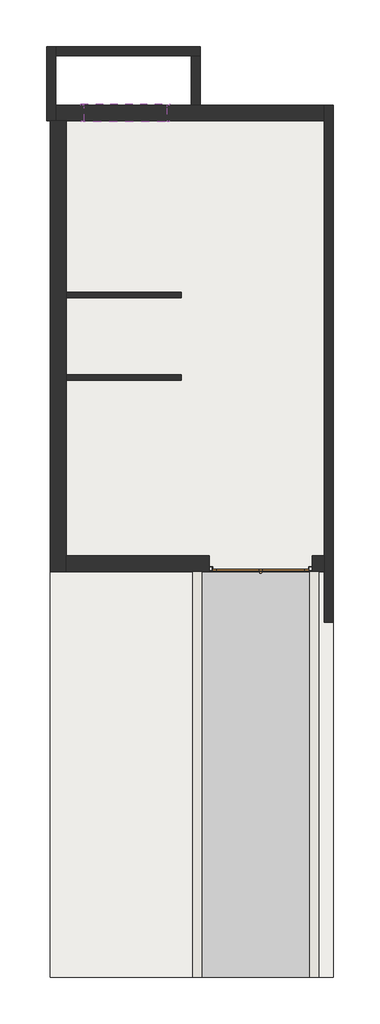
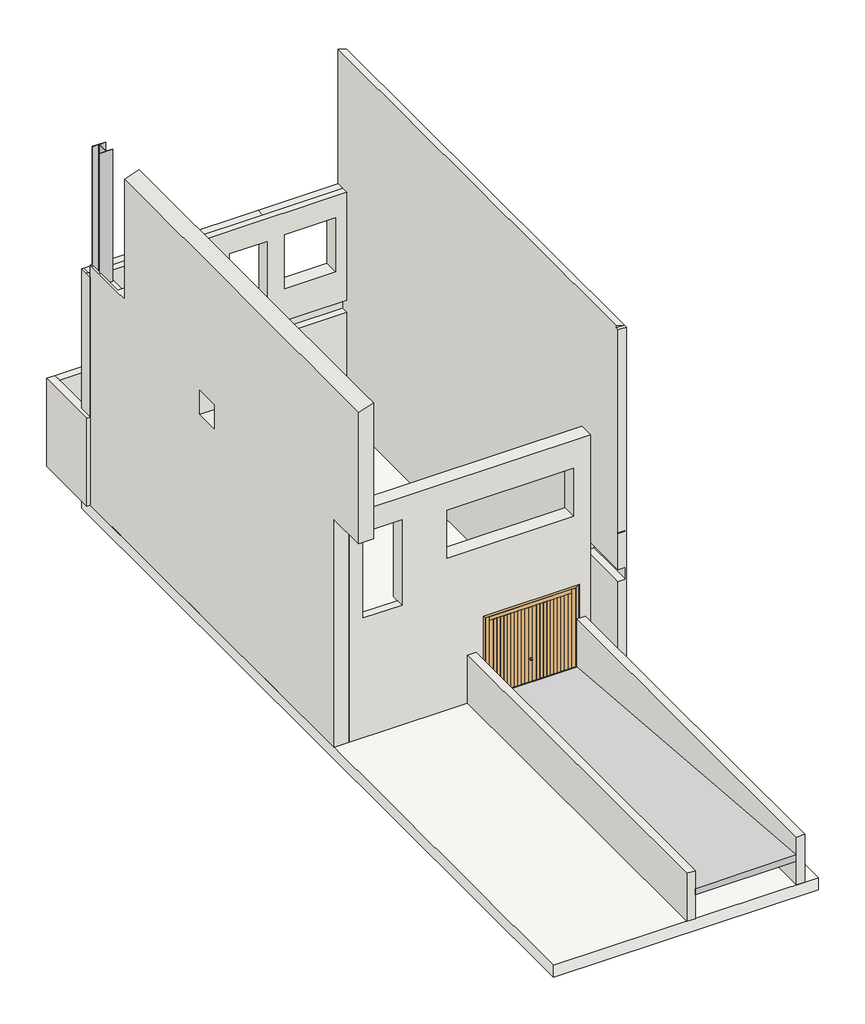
# One storey, incomplete: 11 walls, 1 column, 1 door, 1 ramp, 1 slab, 1 window.
"""IFC4 building model written with IfcOpenShell, lengths in millimetres."""

from ifc_helpers import new_model, si_unit, frame, origin, place, context, project, spatial, polyline, outline, extrude, faceted_brep, transform, mapped, element, save
from components import column_305x305x97uc_55296ce6, so_2285x2044_3bf3b656, ramp_1_c634dc8e, m_transom_1830_x_0457mm_4e4a5cc7

model = new_model("IFC4")

# Units and contexts
model_context = context("Model", 3, world=origin())
ifc_project = project(units=[si_unit("LENGTHUNIT", "METRE", prefix="MILLI")], contexts=[model_context])

# Site, building, storey
site = spatial("IfcSite", under=ifc_project)
building = spatial("IfcBuilding", under=site)
storey = spatial("IfcBuildingStorey", under=building, Name="Garáž", Elevation=-3000.0)

# Column
placement = place(None, origin())
column_305x305x97uc_shape = column_305x305x97uc_55296ce6(model_context)
element("IfcColumn", 1, ObjectType="SloupKonstrukční : 305x305x97UC", at=placement, inside=storey, context=model_context, shape_type="MappedRepresentation", body=[
    mapped(column_305x305x97uc_shape, transform((-7961.8266822, 4019.7328473, 0.0), x_axis=(1.0, 0.0, 0.0), y_axis=(0.0, 1.0, 0.0), z_axis=(0.0, 0.0, 1.0))),
])

# Door
so_2285x2044_shape = so_2285x2044_3bf3b656(model_context)
element("IfcDoor", 2, ObjectType="Garage-UpandOver-Type A : SO 2285x2044", at=placement, inside=storey, context=model_context, shape_type="MappedRepresentation", body=[
    mapped(so_2285x2044_shape, transform((-3468.5130621, -5601.7671527, -3000.0), x_axis=(1.0, 0.0, 0.0), y_axis=(0.0, 1.0, 0.0), z_axis=(0.0, 0.0, 1.0))),
])

# Ramp
ramp_1_shape = ramp_1_c634dc8e(model_context)
element("IfcRamp", 3, ObjectType="Ramp 1", at=placement, inside=storey, context=model_context, shape_type="MappedRepresentation", body=[
    mapped(ramp_1_shape, transform((0.0, 0.0, 0.0), x_axis=(1.0, 0.0, 0.0), y_axis=(0.0, 1.0, 0.0), z_axis=(0.0, 0.0, 1.0))),
])

# Slab
element("IfcSlab", 4, ObjectType="Domestic Slab", at=placement, inside=storey, context=model_context, shape_type="SweptSolid", body=[
    extrude(outline(polyline([(-8133.3266822, 4576.7328473), (-1861.8266822, 4576.7328473), (-1861.8266822, -14776.7671527), (-8133.3266822, -14776.7671527), (-8133.3266822, 4576.7328473)])), frame((0.0, 0.0, -3300.0), z_axis=(0.0, 0.0, 1.0), x_axis=(1.0, 0.0, 0.0)), (0.0, 0.0, 1.0), 300.0),
])

# Walls
element("IfcWall", 5, ObjectType="Exterior - Brick on Mtl. Stud", at=placement, inside=storey, context=model_context, shape_type="Brep", body=[
    faceted_brep([(-8133.3266822, 4223.2328473, -3000.0), (-8133.3266822, -5776.7671527, -3000.0), (-8133.3266822, -5776.7671527, 2700.0), (-8133.3266822, -6780.2671527, 2700.0), (-8133.3266822, -6780.2671527, 6000.0), (-8133.3266822, 2823.2328473, 6000.0), (-8133.3266822, 2823.2328473, 3000.0), (-8133.3266822, 3173.2328473, 3000.0), (-8133.3266822, 4223.2328473, 3000.0), (-8133.3266822, -856.8406402, 2583.8025508), (-8133.3266822, -856.8406402, 1983.8025508), (-8133.3266822, -256.8406402, 1983.8025508), (-8133.3266822, -256.8406402, 2583.8025508), (-7783.3266822, -5776.7671527, -3000.0), (-7783.3266822, 4223.2328473, -3000.0), (-7783.3266822, 4223.2328473, -300.0), (-7783.3266822, 298.1593598, -300.0), (-7783.3266822, 298.1593598, 0.0), (-7783.3266822, 4223.2328473, 0.0), (-7783.3266822, 4223.2328473, 2700.0), (-7783.3266822, 298.1593598, 2700.0), (-7783.3266822, 298.1593598, 3000.0), (-7783.3266822, 2823.2328473, 3000.0), (-7783.3266822, 2823.2328473, 6112.3021997), (-7783.3266822, -6426.7671527, 6112.3021997), (-7783.3266822, -6776.7671527, 6112.3021997), (-7783.3266822, -6780.2671527, 6112.3021997), (-7783.3266822, -6780.2671527, 2700.0), (-7783.3266822, -6776.7671527, 2700.0), (-7783.3266822, -6426.7671527, 2700.0), (-7783.3266822, -6423.2671527, 2700.0), (-7783.3266822, -6423.2671527, 3000.0), (-7783.3266822, -1401.8406402, 3000.0), (-7783.3266822, -1401.8406402, 2700.0), (-7783.3266822, -5776.7671527, 2700.0), (-7783.3266822, -856.8406402, 1983.8025508), (-7783.3266822, -856.8406402, 2583.8025508), (-7783.3266822, -256.8406402, 2583.8025508), (-7783.3266822, -256.8406402, 1983.8025508), (-7783.3266822, -1401.8406402, -300.0), (-7783.3266822, -5595.2671527, -300.0), (-7783.3266822, -5595.2671527, 0.0), (-7783.3266822, -1401.8406402, 0.0), (-7948.3266822, -5776.7671527, 2700.0), (-7948.3266822, -6423.2671527, 2700.0), (-7948.3266822, 2823.2328473, 3000.0), (-7948.3266822, 3173.2328473, 3000.0), (-8088.3266822, 3173.2328473, 3000.0), (-8088.3266822, 4223.2328473, 3000.0), (-8088.3266822, 4223.2328473, 2700.0), (-7948.3266822, 4223.2328473, 0.0), (-7948.3266822, 4223.2328473, -300.0), (-7948.3266822, -1401.8406402, -300.0), (-7948.3266822, -5595.2671527, -300.0), (-7948.3266822, 298.1593598, -300.0), (-7948.3266822, -5595.2671527, 0.0), (-7948.3266822, -1401.8406402, 0.0), (-7948.3266822, 298.1593598, 0.0), (-7948.3266822, 3173.2328473, 2700.0), (-7948.3266822, 298.1593598, 2700.0), (-8088.3266822, 3173.2328473, 2700.0), (-7948.3266822, -1401.8406402, 2700.0), (-7948.3266822, -6423.2671527, 3000.0), (-7948.3266822, -1401.8406402, 3000.0), (-7948.3266822, 298.1593598, 3000.0)], [[[0, 1, 2, 3, 4, 5, 6, 7, 8], [9, 10, 11, 12]], [[13, 14, 15, 16, 17, 18, 19, 20, 21, 22, 23, 24, 25, 26, 27, 28, 29, 30, 31, 32, 33, 34], [35, 36, 37, 38], [39, 40, 41, 42]], [[1, 0, 14, 13]], [[3, 2, 43, 44, 30, 29, 28, 27]], [[4, 3, 27, 26]], [[8, 7, 6, 45, 46, 47, 48]], [[6, 5, 23, 22, 45]], [[2, 1, 13, 34, 43]], [[0, 8, 48, 49, 19, 18, 50, 51, 15, 14]], [[5, 4, 26, 25, 24, 23]], [[36, 35, 10, 9]], [[37, 36, 9, 12]], [[38, 37, 12, 11]], [[35, 38, 11, 10]], [[52, 53, 40, 39]], [[54, 16, 15, 51]], [[55, 56, 42, 41]], [[57, 50, 18, 17]], [[57, 54, 51, 50]], [[53, 55, 41, 40]], [[53, 52, 56, 55]], [[56, 52, 39, 42]], [[54, 57, 17, 16]], [[58, 59, 20, 19, 49, 60]], [[61, 43, 34, 33]], [[62, 63, 32, 31]], [[64, 45, 22, 21]], [[44, 62, 31, 30]], [[63, 62, 44, 43, 61]], [[63, 61, 33, 32]], [[59, 64, 21, 20]], [[59, 58, 46, 45, 64]], [[58, 60, 47, 46]], [[47, 60, 49, 48]]]),
])
element("IfcWall", 6, ObjectType="Exterior - Brick on Mtl. Stud", at=placement, inside=storey, context=model_context, shape_type="Brep", body=[
    faceted_brep([(-2061.8266822, -5776.7671527, -3000.0), (-2061.8266822, -5776.7671527, 2700.0), (-7783.3266822, -5776.7671527, 2700.0), (-7783.3266822, -5776.7671527, -1500.0), (-7783.3266822, -5776.7671527, -1800.0), (-7783.3266822, -5776.7671527, -3000.0), (-4979.3266822, -5776.7671527, -3000.0), (-4779.3266822, -5776.7671527, -3000.0), (-4611.0130621, -5776.7671527, -3000.0), (-4611.0130621, -5776.7671527, -956.0), (-2326.0130621, -5776.7671527, -956.0), (-2326.0130621, -5776.7671527, -3000.0), (-2179.3266822, -5776.7671527, -3000.0), (-7443.8266822, -5776.7671527, 0.0), (-7443.8266822, -5776.7671527, 2134.0), (-6529.8266822, -5776.7671527, 2134.0), (-6529.8266822, -5776.7671527, 0.0), (-2461.8266822, -5776.7671527, 2000.0), (-2461.8266822, -5776.7671527, 800.0), (-5461.8266822, -5776.7671527, 800.0), (-5461.8266822, -5776.7671527, 2000.0), (-7783.3266822, -5426.7671527, 2700.0), (-2061.8266822, -5426.7671527, 2700.0), (-2061.8266822, -5426.7671527, 0.0), (-6529.8266822, -5426.7671527, 0.0), (-6529.8266822, -5426.7671527, 2134.0), (-7443.8266822, -5426.7671527, 2134.0), (-7443.8266822, -5426.7671527, 0.0), (-7783.3266822, -5426.7671527, 0.0), (-2461.8266822, -5426.7671527, 800.0), (-2461.8266822, -5426.7671527, 2000.0), (-5461.8266822, -5426.7671527, 2000.0), (-5461.8266822, -5426.7671527, 800.0), (-2326.0130621, -5426.7671527, -3000.0), (-2326.0130621, -5426.7671527, -956.0), (-4611.0130621, -5426.7671527, -956.0), (-4611.0130621, -5426.7671527, -3000.0), (-7783.3266822, -5426.7671527, -3000.0), (-7783.3266822, -5426.7671527, -300.0), (-2061.8266822, -5426.7671527, -300.0), (-2061.8266822, -5426.7671527, -3000.0), (-2061.8266822, -5595.2671527, -300.0), (-2061.8266822, -5595.2671527, 0.0), (-7783.3266822, -5595.2671527, 0.0), (-7783.3266822, -5595.2671527, -300.0), (-7443.8266822, -5595.2671527, 0.0), (-6529.8266822, -5595.2671527, 0.0)], [[[0, 1, 2, 3, 4, 5, 6, 7, 8, 9, 10, 11, 12], [13, 14, 15, 16], [17, 18, 19, 20]], [[21, 22, 23, 24, 25, 26, 27, 28], [29, 30, 31, 32]], [[33, 34, 35, 36, 37, 38, 39, 40]], [[40, 0, 12, 11, 33]], [[5, 37, 36, 8, 7, 6]], [[1, 0, 40, 39, 41, 42, 23, 22]], [[5, 4, 3, 2, 21, 28, 43, 44, 38, 37]], [[2, 1, 22, 21]], [[26, 14, 13, 45, 27]], [[14, 26, 25, 15]], [[15, 25, 24, 46, 16]], [[13, 16, 46, 45]], [[34, 33, 11, 10]], [[35, 34, 10, 9]], [[36, 35, 9, 8]], [[30, 29, 18, 17]], [[31, 30, 17, 20]], [[32, 31, 20, 19]], [[29, 32, 19, 18]], [[44, 41, 39, 38]], [[42, 46, 24, 23]], [[45, 43, 28, 27]], [[46, 42, 41, 44, 43, 45]]]),
])
element("IfcWall", 7, ObjectType="Exterior - Brick on Mtl. Stud", at=placement, inside=storey, context=model_context, shape_type="Brep", body=[
    faceted_brep([(-2061.8266822, 4573.2328473, -3000.0), (-8018.3266822, 4573.2328473, -3000.0), (-8018.3266822, 4573.2328473, -800.0), (-8133.3266822, 4573.2328473, -800.0), (-8133.3266822, 4573.2328473, 2700.0), (-8088.3266822, 4573.2328473, 2700.0), (-7948.3266822, 4573.2328473, 2700.0), (-3951.8266822, 4573.2328473, 2700.0), (-2061.8266822, 4573.2328473, 2700.0), (-3929.8266822, 4573.2328473, 0.0), (-3929.8266822, 4573.2328473, 2134.0), (-4843.8266822, 4573.2328473, 2134.0), (-4843.8266822, 4573.2328473, 0.0), (-5556.8266822, 4573.2328473, -1700.0), (-5556.8266822, 4573.2328473, -1243.0), (-7386.8266822, 4573.2328473, -1243.0), (-7386.8266822, 4573.2328473, -1700.0), (-2329.3266822, 4573.2328473, 800.0), (-2329.3266822, 4573.2328473, 2150.0), (-3529.3266822, 4573.2328473, 2150.0), (-3529.3266822, 4573.2328473, 800.0), (-5886.8266822, 4573.2328473, 800.0), (-5886.8266822, 4573.2328473, 2150.0), (-7086.8266822, 4573.2328473, 2150.0), (-7086.8266822, 4573.2328473, 800.0), (-8018.3266822, 4223.2328473, -3000.0), (-2061.8266822, 4223.2328473, -3000.0), (-2061.8266822, 4223.2328473, -300.0), (-7948.3266822, 4223.2328473, -300.0), (-7948.3266822, 4223.2328473, 0.0), (-4843.8266822, 4223.2328473, 0.0), (-4843.8266822, 4223.2328473, 2134.0), (-3929.8266822, 4223.2328473, 2134.0), (-3929.8266822, 4223.2328473, 0.0), (-2061.8266822, 4223.2328473, 0.0), (-2061.8266822, 4223.2328473, 2700.0), (-8088.3266822, 4223.2328473, 2700.0), (-8133.3266822, 4223.2328473, 2700.0), (-8133.3266822, 4223.2328473, -800.0), (-8018.3266822, 4223.2328473, -800.0), (-5556.8266822, 4223.2328473, -1243.0), (-5556.8266822, 4223.2328473, -1700.0), (-7386.8266822, 4223.2328473, -1700.0), (-7386.8266822, 4223.2328473, -1243.0), (-2329.3266822, 4223.2328473, 2150.0), (-2329.3266822, 4223.2328473, 800.0), (-3529.3266822, 4223.2328473, 800.0), (-3529.3266822, 4223.2328473, 2150.0), (-5886.8266822, 4223.2328473, 2150.0), (-5886.8266822, 4223.2328473, 800.0), (-7086.8266822, 4223.2328473, 800.0), (-7086.8266822, 4223.2328473, 2150.0), (-2061.8266822, 4384.7328473, 2700.0), (-2061.8266822, 4391.7328473, 0.0), (-2061.8266822, 4391.7328473, -300.0), (-8133.3266822, 4384.7328473, 2700.0), (-8088.3266822, 4384.7328473, 2700.0), (-7948.3266822, 4384.7328473, 2700.0), (-3951.8266822, 4391.7328473, 2700.0), (-3951.8266822, 4384.7328473, 2700.0), (-3929.8266822, 4391.7328473, 0.0), (-4843.8266822, 4391.7328473, 0.0), (-7948.3266822, 4391.7328473, -300.0), (-7948.3266822, 4391.7328473, 0.0)], [[[0, 1, 2, 3, 4, 5, 6, 7, 8], [9, 10, 11, 12], [13, 14, 15, 16], [17, 18, 19, 20], [21, 22, 23, 24]], [[25, 26, 27, 28, 29, 30, 31, 32, 33, 34, 35, 36, 37, 38, 39], [40, 41, 42, 43], [44, 45, 46, 47], [48, 49, 50, 51]], [[1, 0, 26, 25]], [[26, 0, 8, 52, 35, 34, 53, 54, 27]], [[3, 2, 39, 38]], [[2, 1, 25, 39]], [[4, 3, 38, 37, 55]], [[37, 36, 56, 55]], [[5, 4, 55, 56]], [[6, 5, 56, 57]], [[52, 8, 7, 58, 59]], [[7, 6, 57, 59, 58]], [[36, 35, 52, 59, 57, 56]], [[32, 10, 9, 60, 33]], [[10, 32, 31, 11]], [[11, 31, 30, 61, 12]], [[9, 12, 61, 60]], [[40, 14, 13, 41]], [[41, 13, 16, 42]], [[15, 43, 42, 16]], [[14, 40, 43, 15]], [[44, 18, 17, 45]], [[45, 17, 20, 46]], [[46, 20, 19, 47]], [[18, 44, 47, 19]], [[49, 48, 22, 21]], [[50, 49, 21, 24]], [[51, 50, 24, 23]], [[48, 51, 23, 22]], [[54, 62, 28, 27]], [[60, 53, 34, 33]], [[63, 61, 30, 29]], [[62, 63, 29, 28]], [[62, 54, 53, 60, 61, 63]]]),
])
element("IfcWall", 8, ObjectType="Generic - 200mm", at=placement, inside=storey, context=model_context, shape_type="Brep", body=[
    faceted_brep([(-1861.8266822, -6901.7671527, -3000.0), (-1861.8266822, 4573.2328473, -3000.0), (-1861.8266822, 4573.2328473, 6000.0), (-1861.8266822, -6811.7671527, 6000.0), (-1861.8266822, -6901.7671527, 6000.0), (-2061.8266822, 4573.2328473, -3000.0), (-2061.8266822, -6901.7671527, -3000.0), (-2061.8266822, -6901.7671527, -300.0), (-2061.8266822, -5610.7671527, -300.0), (-2061.8266822, -5610.7671527, 0.0), (-2061.8266822, -6901.7671527, 0.0), (-2061.8266822, -6901.7671527, 900.0), (-2061.8266822, -6851.7671527, 900.0), (-2061.8266822, -6851.7671527, 930.0), (-2061.8266822, -6901.7671527, 930.0), (-2061.8266822, -6901.7671527, 6000.0), (-2061.8266822, -6811.7671527, 6000.0), (-2061.8266822, -6811.7671527, 6064.1726855), (-2061.8266822, -6776.7671527, 6064.1726855), (-2061.8266822, -6426.7671527, 6064.1726855), (-2061.8266822, 4223.2328473, 6064.1726855), (-2061.8266822, 4573.2328473, 6064.1726855), (-2061.8266822, 4573.2328473, 2700.0), (-1885.3128003, -6901.7671527, 930.0), (-1885.3128003, -6901.7671527, 900.0), (-1885.3128003, -6901.7671527, 0.0), (-1881.8266822, -6901.7671527, 0.0), (-1881.8266822, -6901.7671527, -300.0), (-1885.3128003, -6901.7671527, -300.0), (-1881.8266822, -5610.7671527, -300.0), (-1881.8266822, -5610.7671527, 0.0), (-1885.3128003, -6851.7671527, 900.0), (-1885.3128003, -6851.7671527, 930.0)], [[[0, 1, 2, 3, 4]], [[5, 6, 7, 8, 9, 10, 11, 12, 13, 14, 15, 16, 17, 18, 19, 20, 21, 22]], [[1, 0, 6, 5]], [[0, 4, 15, 14, 23, 24, 11, 10, 25, 26, 27, 28, 7, 6]], [[1, 5, 22, 21, 2]], [[15, 4, 3, 16]], [[16, 3, 17]], [[3, 2, 21, 20, 19, 18, 17]], [[27, 29, 8, 7, 28]], [[30, 26, 25, 10, 9]], [[29, 30, 9, 8]], [[29, 27, 26, 30]], [[31, 24, 23, 32]], [[32, 23, 14, 13]], [[31, 32, 13, 12]], [[24, 31, 12, 11]]]),
])
element("IfcWall", 9, ObjectType="Generic - 200mm", at=placement, inside=storey, context=model_context, shape_type="Brep", body=[
    faceted_brep([(-8018.3266822, 4223.2328473, -3000.0), (-8018.3266822, 4573.2328473, -3000.0), (-8018.3266822, 5873.2328473, -3000.0), (-8018.3266822, 5873.2328473, -2100.0), (-8018.3266822, 5873.2328473, -800.0), (-8018.3266822, 5673.2328473, -800.0), (-8018.3266822, 4573.2328473, -800.0), (-8018.3266822, 4223.2328473, -800.0), (-8218.3266822, 4223.2328473, -3000.0), (-8218.3266822, 4223.2328473, -800.0), (-8218.3266822, 5873.2328473, -800.0), (-8218.3266822, 5873.2328473, -3000.0), (-8133.3266822, 4223.2328473, -800.0)], [[[0, 1, 2, 3, 4, 5, 6, 7]], [[8, 9, 10, 11]], [[2, 1, 0, 8, 11]], [[7, 6, 5, 4, 10, 9, 12]], [[4, 3, 2, 11, 10]], [[0, 7, 12, 9, 8]]]),
])
element("IfcWall", 10, ObjectType="Generic - 200mm", at=placement, inside=storey, context=model_context, shape_type="Brep", body=[
    faceted_brep([(-8018.3266822, 5673.2328473, -2100.0), (-4811.8266822, 5673.2328473, -2100.0), (-4811.8266822, 5673.2328473, -1100.0), (-4811.8266822, 5673.2328473, -800.0), (-8018.3266822, 5673.2328473, -800.0), (-8018.3266822, 5873.2328473, -2100.0), (-8018.3266822, 5873.2328473, -800.0), (-4811.8266822, 5873.2328473, -800.0), (-4811.8266822, 5873.2328473, -2100.0)], [[[0, 1, 2, 3, 4]], [[5, 6, 7, 8]], [[1, 0, 5, 8]], [[4, 3, 7, 6]], [[3, 2, 1, 8, 7]], [[0, 4, 6, 5]]]),
])
element("IfcWall", 11, ObjectType="Generic - 200mm", at=placement, inside=storey, context=model_context, shape_type="Brep", body=[
    faceted_brep([(-5011.8266822, 5673.2328473, -3000.0), (-5011.8266822, 4576.7328473, -3000.0), (-5011.8266822, 4576.7328473, -1100.0), (-5011.8266822, 5673.2328473, -1100.0), (-4811.8266822, 5673.2328473, -3000.0), (-4811.8266822, 5673.2328473, -2100.0), (-4811.8266822, 5673.2328473, -1100.0), (-4811.8266822, 4576.7328473, -1100.0), (-4811.8266822, 4576.7328473, -3000.0)], [[[0, 1, 2, 3]], [[4, 5, 6, 7, 8]], [[1, 0, 4, 8]], [[0, 3, 6, 5, 4]], [[2, 1, 8, 7]], [[3, 2, 7, 6]]]),
])
element("IfcWall", 12, ObjectType="Generic - 200mm - Filled", at=placement, inside=storey, context=model_context, shape_type="SweptSolid", body=[
    extrude(outline(polyline([(-4979.3266822, -14776.7671527), (-4979.3266822, -5776.7671527), (-4779.3266822, -5776.7671527), (-4779.3266822, -14776.7671527), (-4979.3266822, -14776.7671527)])), frame((0.0, 0.0, -3000.0), z_axis=(0.0, 0.0, 1.0), x_axis=(1.0, 0.0, 0.0)), (0.0, 0.0, 1.0), 1200.0),
])
element("IfcWall", 13, ObjectType="Generic - 200mm - Filled", at=placement, inside=storey, context=model_context, shape_type="Brep", body=[
    faceted_brep([(-2379.3266822, -5776.7671527, -3000.0), (-2379.3266822, -14776.7671527, -3000.0), (-2379.3266822, -14776.7671527, -1800.0), (-2379.3266822, -5776.7671527, -1800.0), (-2179.3266822, -5776.7671527, -3000.0), (-2179.3266822, -5776.7671527, -1800.0), (-2179.3266822, -14776.7671527, -1800.0), (-2179.3266822, -14776.7671527, -3000.0), (-2326.0130621, -5776.7671527, -3000.0)], [[[0, 1, 2, 3]], [[4, 5, 6, 7]], [[1, 0, 8, 4, 7]], [[2, 1, 7, 6]], [[0, 3, 5, 4, 8]], [[3, 2, 6, 5]]]),
])
element("IfcWall", 14, ObjectType="Interior wall", at=placement, inside=storey, context=model_context, shape_type="SweptSolid", body=[
    extrude(outline(polyline([(-5226.8266822, -1526.8406402), (-7783.3266822, -1526.8406402), (-7783.3266822, -1401.8406402), (-5226.8266822, -1401.8406402), (-5226.8266822, -1526.8406402)])), frame((0.0, 0.0, -3000.0), z_axis=(0.0, 0.0, 1.0), x_axis=(1.0, 0.0, 0.0)), (0.0, 0.0, 1.0), 2700.0),
])
element("IfcWall", 15, ObjectType="Interior wall", at=placement, inside=storey, context=model_context, shape_type="SweptSolid", body=[
    extrude(outline(polyline([(-7783.3266822, 423.1593598), (-5226.8266822, 423.1593598), (-5226.8266822, 298.1593598), (-7783.3266822, 298.1593598), (-7783.3266822, 423.1593598)])), frame((0.0, 0.0, -3000.0), z_axis=(0.0, 0.0, 1.0), x_axis=(1.0, 0.0, 0.0)), (0.0, 0.0, 1.0), 2700.0),
])

# Window
m_transom_1830_x_0457mm_shape = m_transom_1830_x_0457mm_4e4a5cc7(model_context)
element("IfcWindow", 16, ObjectType="M_Transom : 1830 x 0457mm", at=placement, inside=storey, context=model_context, shape_type="MappedRepresentation", body=[
    mapped(m_transom_1830_x_0457mm_shape, transform((-6433.7266822, 4398.2328473, -3859.0), x_axis=(1.0, 0.0, 0.0), y_axis=(0.0, 1.0, 0.0), z_axis=(0.0, 0.0, 1.0))),
])

save(model, "model.ifc")
